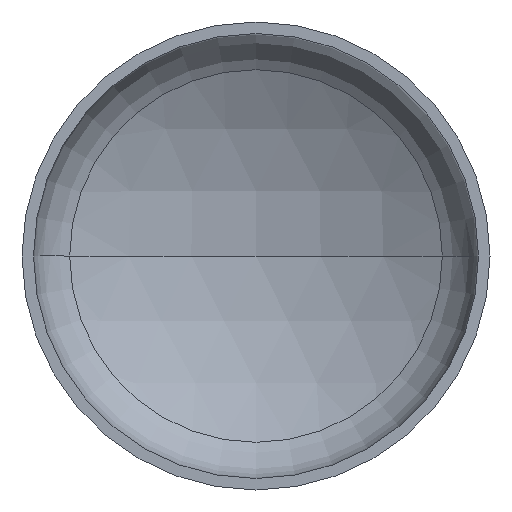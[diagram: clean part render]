
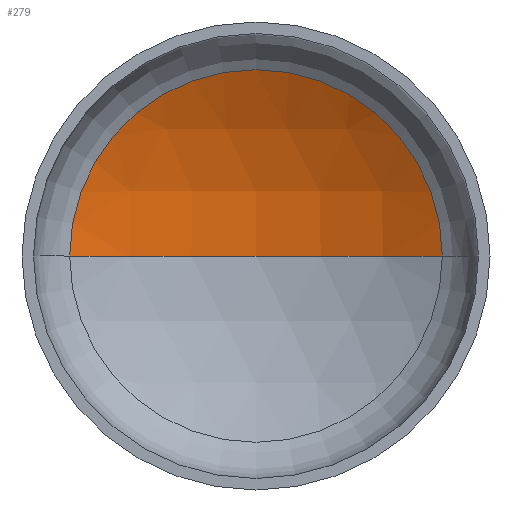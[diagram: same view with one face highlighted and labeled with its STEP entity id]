
A CAD part, front view. The second image highlights one B-rep face of the part: STEP entity #279.
In plain terms, the highlighted spherical face has radius 1040 mm.
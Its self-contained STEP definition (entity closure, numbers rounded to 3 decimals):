
#7 = VERTEX_POINT ( 'NONE', #358 ) ;
#12 = AXIS2_PLACEMENT_3D ( 'NONE', #167, #180, #36 ) ;
#14 = AXIS2_PLACEMENT_3D ( 'NONE', #118, #55, #121 ) ;
#27 = DIRECTION ( 'NONE',  ( 0., -1., 0. ) ) ;
#35 = AXIS2_PLACEMENT_3D ( 'NONE', #182, #197, #214 ) ;
#36 = DIRECTION ( 'NONE',  ( -1., 0., 0. ) ) ;
#40 = EDGE_LOOP ( 'NONE', ( #172, #134, #184 ) ) ;
#43 = DIRECTION ( 'NONE',  ( 1., 0., 0. ) ) ;
#55 = DIRECTION ( 'NONE',  ( 0., 0., 1. ) ) ;
#118 = CARTESIAN_POINT ( 'NONE',  ( 0., -628.612, 0. ) ) ;
#121 = DIRECTION ( 'NONE',  ( 1., 0., 0. ) ) ;
#134 = ORIENTED_EDGE ( 'NONE', *, *, #376, .T. ) ;
#152 = CIRCLE ( 'NONE', #406, 517.524 ) ;
#167 = CARTESIAN_POINT ( 'NONE',  ( 0., -628.612, 0. ) ) ;
#170 = VERTEX_POINT ( 'NONE', #219 ) ;
#172 = ORIENTED_EDGE ( 'NONE', *, *, #353, .F. ) ;
#180 = DIRECTION ( 'NONE',  ( 0., 0., -1. ) ) ;
#182 = CARTESIAN_POINT ( 'NONE',  ( 0., -628.612, 0. ) ) ;
#184 = ORIENTED_EDGE ( 'NONE', *, *, #382, .T. ) ;
#192 = VERTEX_POINT ( 'NONE', #271 ) ;
#197 = DIRECTION ( 'NONE',  ( 0., 0., -1. ) ) ;
#214 = DIRECTION ( 'NONE',  ( -1., 0., 0. ) ) ;
#219 = CARTESIAN_POINT ( 'NONE',  ( -517.524, 273.479, 0. ) ) ;
#240 = CIRCLE ( 'NONE', #12, 1040. ) ;
#253 = CIRCLE ( 'NONE', #14, 1040. ) ;
#271 = CARTESIAN_POINT ( 'NONE',  ( 0., 411.388, 0. ) ) ;
#274 = SPHERICAL_SURFACE ( 'NONE', #35, 1040. ) ;
#279 = ADVANCED_FACE ( 'NONE', ( #392 ), #274, .F. ) ;
#330 = CARTESIAN_POINT ( 'NONE',  ( 0., 273.479, 0. ) ) ;
#353 = EDGE_CURVE ( 'NONE', #192, #170, #253, .T. ) ;
#358 = CARTESIAN_POINT ( 'NONE',  ( 517.524, 273.479, 0. ) ) ;
#376 = EDGE_CURVE ( 'NONE', #192, #7, #240, .T. ) ;
#382 = EDGE_CURVE ( 'NONE', #7, #170, #152, .T. ) ;
#392 = FACE_OUTER_BOUND ( 'NONE', #40, .T. ) ;
#406 = AXIS2_PLACEMENT_3D ( 'NONE', #330, #27, #43 ) ;
